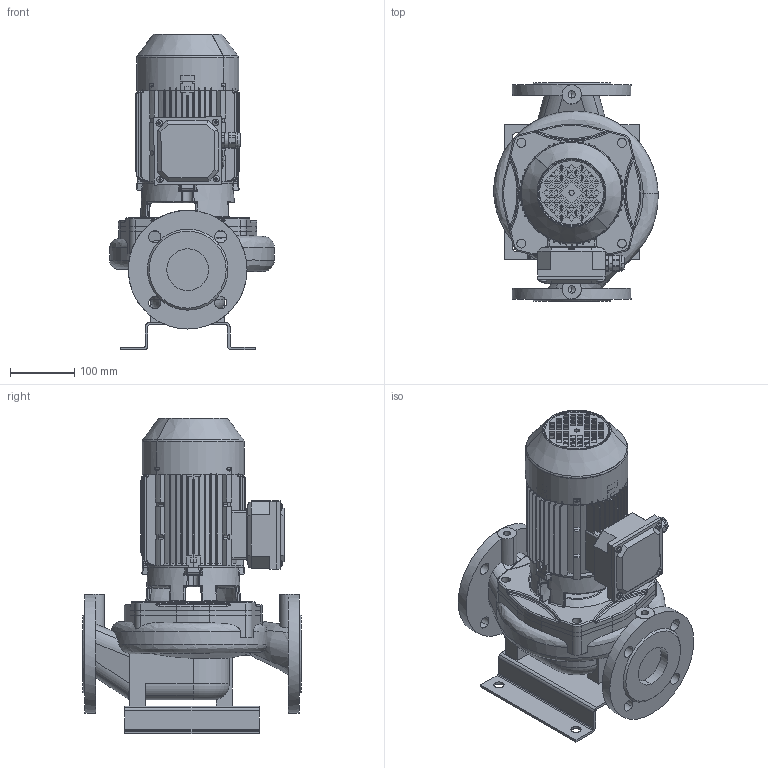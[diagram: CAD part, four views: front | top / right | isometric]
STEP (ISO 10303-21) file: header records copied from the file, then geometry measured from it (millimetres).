
FILE_DESCRIPTION(('STEP AP214'),'1');
FILE_NAME('export.stp','2018-05-29T09:17:35',(' '),(' '),'Spatial InterOp 3D',' ',' ');
FILE_SCHEMA(('AUTOMOTIVE_DESIGN { 1 0 10303 214 1 1 1 1 }'));
Length unit declared in the file: millimetre
Products named in the file (23): W_L65A4770_withou; V_TLL65AB80A1102; V_PPL65AB; V_JALKA35973; W_LS65B4750_KP80; 160022; 160003; V_MKP80-2_F19; 160141; 160137; 160138; 160139; 160140; Koura_Ale_M5; Plug_Blind_M20; Sealing_Plug_M20; DIN_7985-M5X8; DIN_7985-M5X12; 480032; 480031___; 480034; 480033___; 160133
Assembly tree (25 placements, depth 4):
  W_LS65B4750_KP80
    W_L65A4770_withou
      V_TLL65AB80A1102
      V_PPL65AB
      V_JALKA35973
    V_MKP80-2_F19
      160022
        160003
      160141
        160137
        160138
        160139
        160140
        Koura_Ale_M5
        Plug_Blind_M20
        Sealing_Plug_M20
        DIN_7985-M5X8
        DIN_7985-M5X12  x4
      480032
        480031___
      480034
        480033___
      160133
Bounding box: 256.52 x 340 x 492.11 mm (x, y, z)
Volume: 6470496.4 mm3; surface area: 1248691.3 mm2
Topology: 19 solids, 19 shells, 2841 faces, 7438 edges, 4625 vertices
Faces by surface type: plane 1075, cylinder 917, bspline 356, torus 282, cone 147, sphere 64
Entity records: 111868 total; most frequent: CARTESIAN_POINT 41791, ORIENTED_EDGE 14444, DIRECTION 13191, EDGE_CURVE 7222, AXIS2_PLACEMENT_3D 5005, VERTEX_POINT 4529, LINE 3181, VECTOR 3181
